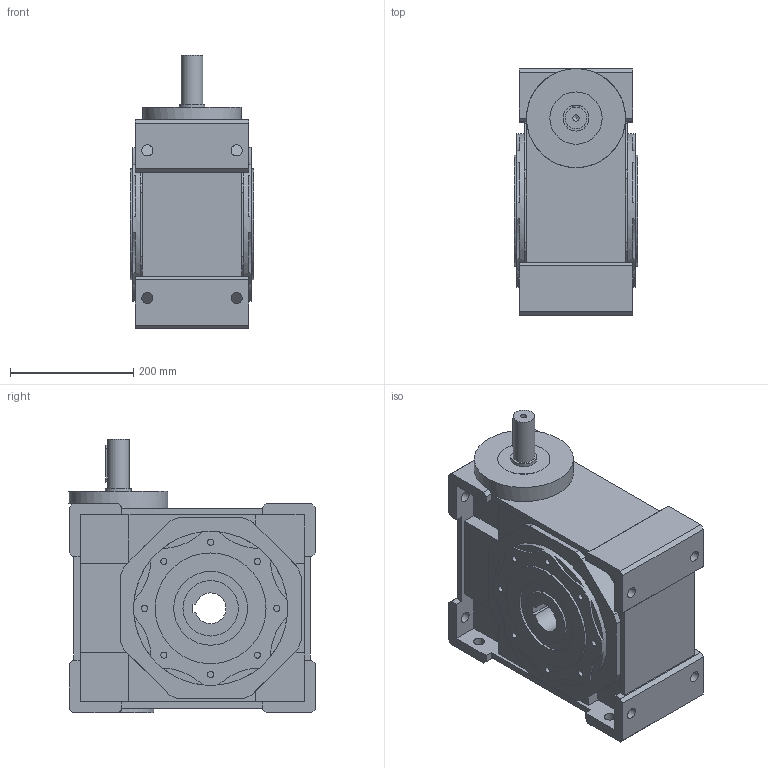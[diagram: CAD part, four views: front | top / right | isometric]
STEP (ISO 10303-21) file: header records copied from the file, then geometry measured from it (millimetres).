
FILE_DESCRIPTION( ( 'Unknown' ), '1' );
FILE_NAME( 'E:/services/configuratordownloads/customers/chiaravalli/chmnew/download/D1C217585AC41DC63649BB6C47E08F37/STEP/D1C217585AC41DC63649BB6C47E08F37.3d.stp', 'Unknown', ( 'Unknown' ), ( 'Unknown' ), 'PSStep 10.1', 'Unknown', ' ' );
FILE_SCHEMA( ( 'AUTOMOTIVE_DESIGN { 1 0 10303 214 1 1 1 1 }' ) );
Length unit declared in the file: millimetre
Products named in the file (1): CHMR150 cassa
Bounding box: 200 x 400.5 x 445 mm (x, y, z)
Volume: 21628819.9 mm3; surface area: 713671 mm2
Topology: 1 solids, 1 shells, 242 faces, 650 edges, 439 vertices
Faces by surface type: plane 163, cylinder 78, cone 1
Full cylindrical faces by diameter (mm): 10.106 x17, 18 x12, 35 x1, 42 x1, 85 x2, 90 x2, 120 x2, 161 x1, 180 x2, 250 x2
Entity records: 9264 total; most frequent: CARTESIAN_POINT 1312, DIRECTION 1258, ORIENTED_EDGE 1166, EDGE_CURVE 583, AXIS2_PLACEMENT_3D 434, VERTEX_POINT 416, LINE 390, VECTOR 390
